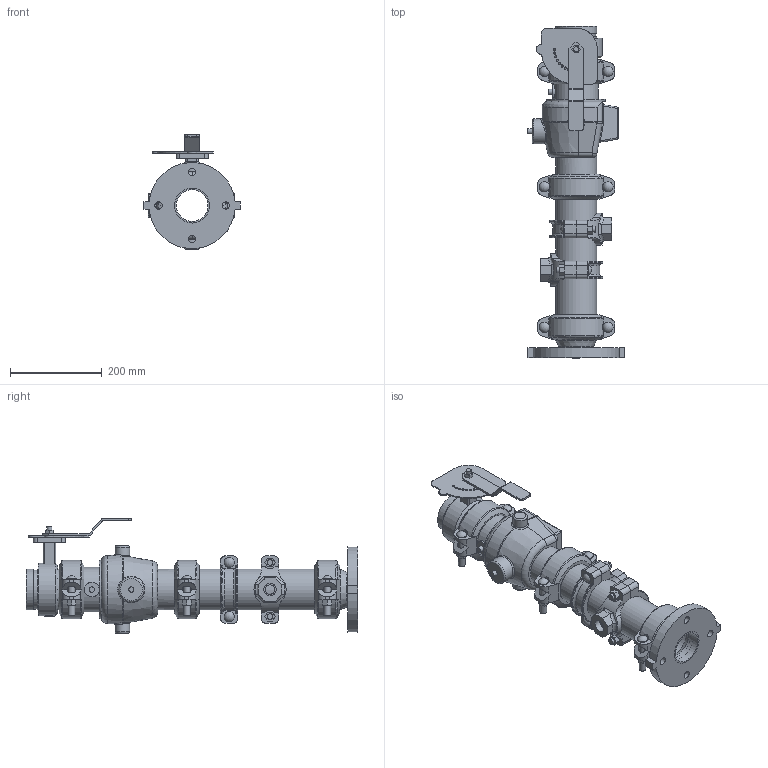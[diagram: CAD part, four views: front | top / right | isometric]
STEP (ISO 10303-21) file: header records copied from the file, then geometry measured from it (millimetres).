
FILE_DESCRIPTION(/* description */ ('VIC DVI PUMP DROP VERT S/390 (OGSxFLG)','CAx-IF Rec.Pracs.---Representation and Presentation of Product Manufacturing Information (PMI)---4.0---2014-10-13'),/* implementation_level */ '2;1');
FILE_NAME(/* name */ 'C:\Users\Vjadhav\AppData\Roaming\Autodesk\ApplicationPlugins\Back Up\Victaulic_IPS_Vertical DVI_PN10_Series 390 (OGSxFLG)\Victaulic_IPS_Vertical DVI_PN10_Series 390 (OGSxFLG)_03.0x02.5 (76.1) (80x65).stp',/* time_stamp */ '2020-11-09T17:49:53+05:00',/* author */ ('Vjadhav'),/* organization */ ('Victaulic'),/* preprocessor_version */ 'ST-DEVELOPER v17.2',/* originating_system */ 'Autodesk Inventor 2019',/* authorisation */ '');
FILE_SCHEMA (('AP242_MANAGED_MODEL_BASED_3D_ENGINEERING_MIM_LF { 1 0 10303 442 1 1 4 }'));
Length unit declared in the file: inch
Products named in the file (10): 390-03.0x02.5 (76.1); 741-02.5 (76.1); 050-03.0x02.5 (76.1); Pipe-03.0; 716H-03.0; 177N-03.0; 761-03.0; 920NT-03.0x0.75; 920N LOWER HSG-03.0; 920NT-03.0x0.75_1
Assembly tree (12 placements, depth 3):
  390-03.0x02.5 (76.1)
    741-02.5 (76.1)
    050-03.0x02.5 (76.1)
    177N-03.0  x3
    Pipe-03.0
    716H-03.0
    761-03.0
    920NT-03.0x0.75  x2
      920N LOWER HSG-03.0
      920NT-03.0x0.75_1
Bounding box: 210.19 x 722.12 x 249.43 mm (x, y, z)
Volume: 4795790.7 mm3; surface area: 901113 mm2
Topology: 12 solids, 13 shells, 767 faces, 2021 edges, 1330 vertices
Faces by surface type: plane 387, cylinder 278, torus 35, bspline 35, cone 16, sphere 16
Full cylindrical faces by diameter (mm): 4.826 x10, 8.636 x4, 10.922 x2, 11.43 x2, 12.7 x8, 14.605 x6, 16.002 x4, 20.93 x2, 21.982 x4, 22.225 x6, 22.86 x1, 26.924 x2, 31.75 x2, 32.004 x1, 53.975 x1, 55.118 x1, 68.986 x1, 72.263 x1, 76.2 x6, 77.927 x3, 80.772 x1, 84.938 x7, 88.9 x18, 97.028 x1, 114.3 x1, 127 x1
Entity records: 16910 total; most frequent: CARTESIAN_POINT 4339, DIRECTION 2529, ORIENTED_EDGE 2408, EDGE_CURVE 1204, AXIS2_PLACEMENT_3D 975, VERTEX_POINT 790, LINE 579, VECTOR 579
